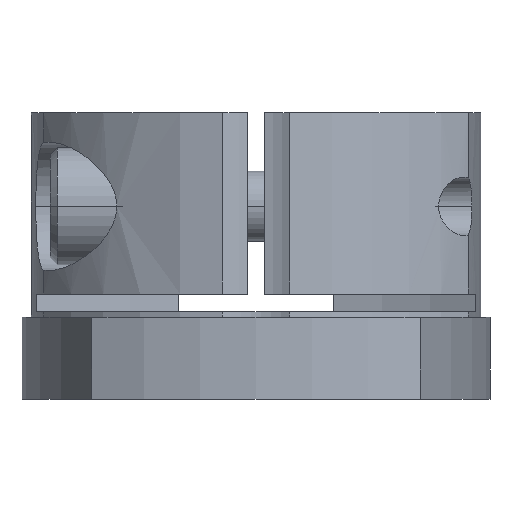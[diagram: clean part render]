
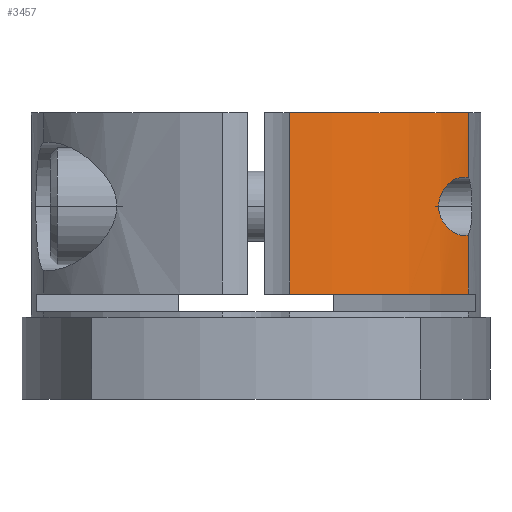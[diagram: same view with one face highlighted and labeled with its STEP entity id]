
A CAD part, front view. The second image highlights one B-rep face of the part: STEP entity #3457.
In plain terms, the highlighted cylindrical face has radius 22 mm (diameter 44 mm), a partial arc.
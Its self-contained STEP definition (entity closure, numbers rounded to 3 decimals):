
#809=CARTESIAN_POINT('',(18.151,-12.431,15.434));
#810=VERTEX_POINT('',#809);
#830=CARTESIAN_POINT('',(15.612,-15.5,13.0));
#831=VERTEX_POINT('',#830);
#832=CARTESIAN_POINT('',(15.612,-15.5,13.0));
#833=CARTESIAN_POINT('',(15.612,-15.5,13.128));
#834=CARTESIAN_POINT('',(15.622,-15.49,13.259));
#835=CARTESIAN_POINT('',(15.663,-15.449,13.52));
#836=CARTESIAN_POINT('',(15.694,-15.418,13.649));
#837=CARTESIAN_POINT('',(15.772,-15.338,13.896));
#838=CARTESIAN_POINT('',(15.82,-15.288,14.015));
#839=CARTESIAN_POINT('',(15.927,-15.177,14.236));
#840=CARTESIAN_POINT('',(15.986,-15.115,14.338));
#841=CARTESIAN_POINT('',(16.127,-14.965,14.553));
#842=CARTESIAN_POINT('',(16.217,-14.867,14.669));
#843=CARTESIAN_POINT('',(16.41,-14.654,14.881));
#844=CARTESIAN_POINT('',(16.513,-14.537,14.977));
#845=CARTESIAN_POINT('',(16.726,-14.293,15.145));
#846=CARTESIAN_POINT('',(16.835,-14.164,15.217));
#847=CARTESIAN_POINT('',(17.051,-13.903,15.336));
#848=CARTESIAN_POINT('',(17.159,-13.77,15.382));
#849=CARTESIAN_POINT('',(17.362,-13.513,15.45));
#850=CARTESIAN_POINT('',(17.466,-13.378,15.475));
#851=CARTESIAN_POINT('',(17.677,-13.098,15.502));
#852=CARTESIAN_POINT('',(17.783,-12.954,15.504));
#853=CARTESIAN_POINT('',(17.977,-12.683,15.483));
#854=CARTESIAN_POINT('',(18.066,-12.556,15.464));
#855=CARTESIAN_POINT('',(18.151,-12.431,15.434));
#856=B_SPLINE_CURVE_WITH_KNOTS('',3,(#832,#833,#834,#835,#836,#837,#838,#839,#840,#841,#842,#843,#844,#845,#846,#847,#848,#849,#850,#851,#852,#853,#854,#855),.UNSPECIFIED.,.F.,.U.,(4,2,2,2,2,2,2,2,2,2,2,4),(7.188,7.572,7.955,8.338,8.722,9.23,9.739,10.247,10.756,11.251,11.746,12.18),.UNSPECIFIED.);
#857=EDGE_CURVE('',#831,#810,#856,.T.);
#2461=CARTESIAN_POINT('',(18.151,-12.431,10.566));
#2462=VERTEX_POINT('',#2461);
#2463=CARTESIAN_POINT('',(18.151,-12.431,10.566));
#2464=CARTESIAN_POINT('',(18.066,-12.556,10.536));
#2465=CARTESIAN_POINT('',(17.977,-12.683,10.517));
#2466=CARTESIAN_POINT('',(17.783,-12.954,10.496));
#2467=CARTESIAN_POINT('',(17.677,-13.098,10.498));
#2468=CARTESIAN_POINT('',(17.466,-13.378,10.525));
#2469=CARTESIAN_POINT('',(17.362,-13.513,10.55));
#2470=CARTESIAN_POINT('',(17.159,-13.77,10.618));
#2471=CARTESIAN_POINT('',(17.051,-13.903,10.664));
#2472=CARTESIAN_POINT('',(16.835,-14.164,10.783));
#2473=CARTESIAN_POINT('',(16.726,-14.293,10.855));
#2474=CARTESIAN_POINT('',(16.513,-14.537,11.023));
#2475=CARTESIAN_POINT('',(16.41,-14.654,11.119));
#2476=CARTESIAN_POINT('',(16.217,-14.867,11.331));
#2477=CARTESIAN_POINT('',(16.127,-14.965,11.447));
#2478=CARTESIAN_POINT('',(15.986,-15.115,11.662));
#2479=CARTESIAN_POINT('',(15.927,-15.177,11.764));
#2480=CARTESIAN_POINT('',(15.82,-15.288,11.985));
#2481=CARTESIAN_POINT('',(15.772,-15.338,12.104));
#2482=CARTESIAN_POINT('',(15.694,-15.418,12.351));
#2483=CARTESIAN_POINT('',(15.663,-15.449,12.48));
#2484=CARTESIAN_POINT('',(15.622,-15.49,12.741));
#2485=CARTESIAN_POINT('',(15.612,-15.5,12.872));
#2486=CARTESIAN_POINT('',(15.612,-15.5,13.0));
#2487=B_SPLINE_CURVE_WITH_KNOTS('',3,(#2463,#2464,#2465,#2466,#2467,#2468,#2469,#2470,#2471,#2472,#2473,#2474,#2475,#2476,#2477,#2478,#2479,#2480,#2481,#2482,#2483,#2484,#2485,#2486),.UNSPECIFIED.,.F.,.U.,(4,2,2,2,2,2,2,2,2,2,2,4),(2.196,2.63,3.125,3.62,4.129,4.637,5.146,5.654,6.038,6.421,6.805,7.188),.UNSPECIFIED.);
#2488=EDGE_CURVE('',#2462,#831,#2487,.T.);
#2579=CARTESIAN_POINT('',(18.151,-12.431,21.0));
#2580=VERTEX_POINT('',#2579);
#2588=CARTESIAN_POINT('',(18.151,-12.431,15.434));
#2589=DIRECTION('',(0.0,0.0,1.0));
#2590=VECTOR('',#2589,5.566);
#2591=LINE('',#2588,#2590);
#2592=EDGE_CURVE('',#810,#2580,#2591,.T.);
#2596=CARTESIAN_POINT('',(18.151,-12.431,5.5));
#2597=VERTEX_POINT('',#2596);
#2598=CARTESIAN_POINT('',(18.151,-12.431,5.5));
#2599=DIRECTION('',(0.0,0.0,1.0));
#2600=VECTOR('',#2599,5.066);
#2601=LINE('',#2598,#2600);
#2602=EDGE_CURVE('',#2597,#2462,#2601,.T.);
#2818=CARTESIAN_POINT('',(2.875,-21.811,21.0));
#2819=VERTEX_POINT('',#2818);
#2820=CARTESIAN_POINT('',(2.875,-21.811,5.5));
#2821=VERTEX_POINT('',#2820);
#2822=CARTESIAN_POINT('',(2.875,-21.811,21.0));
#2823=DIRECTION('',(0.0,0.0,-1.0));
#2824=VECTOR('',#2823,15.5);
#2825=LINE('',#2822,#2824);
#2826=EDGE_CURVE('',#2819,#2821,#2825,.T.);
#3204=CARTESIAN_POINT('',(0.,0.,21.0));
#3205=DIRECTION('',(0.0,0.0,-1.0));
#3206=DIRECTION('',(1.0,0.0,0.0));
#3207=AXIS2_PLACEMENT_3D('',#3204,#3205,#3206);
#3208=CIRCLE('',#3207,22.);
#3209=EDGE_CURVE('',#2580,#2819,#3208,.T.);
#3437=CARTESIAN_POINT('',(0.,0.,-3.5));
#3438=DIRECTION('',(0.0,0.0,1.0));
#3439=DIRECTION('',(1.0,0.0,0.0));
#3440=AXIS2_PLACEMENT_3D('',#3437,#3438,#3439);
#3441=CYLINDRICAL_SURFACE('',#3440,22.);
#3442=ORIENTED_EDGE('',*,*,#2488,.T.);
#3443=ORIENTED_EDGE('',*,*,#857,.T.);
#3444=ORIENTED_EDGE('',*,*,#2592,.T.);
#3445=ORIENTED_EDGE('',*,*,#3209,.T.);
#3446=ORIENTED_EDGE('',*,*,#2826,.T.);
#3447=CARTESIAN_POINT('',(0.,0.,5.5));
#3448=DIRECTION('',(0.0,0.0,1.0));
#3449=DIRECTION('',(1.0,0.0,0.0));
#3450=AXIS2_PLACEMENT_3D('',#3447,#3448,#3449);
#3451=CIRCLE('',#3450,22.);
#3452=EDGE_CURVE('',#2821,#2597,#3451,.T.);
#3453=ORIENTED_EDGE('',*,*,#3452,.T.);
#3454=ORIENTED_EDGE('',*,*,#2602,.T.);
#3455=EDGE_LOOP('',(#3442,#3443,#3444,#3445,#3446,#3453,#3454));
#3456=FACE_OUTER_BOUND('',#3455,.T.);
#3457=ADVANCED_FACE('',(#3456),#3441,.T.);
